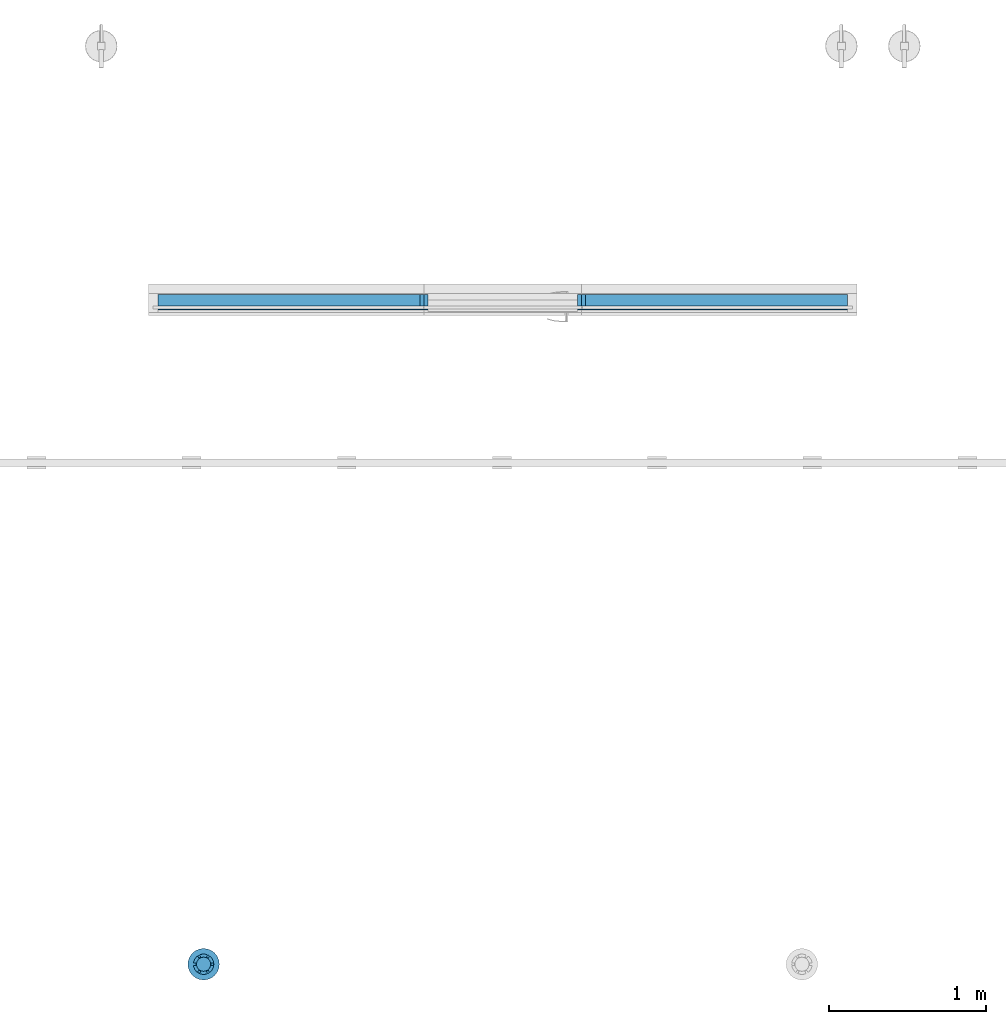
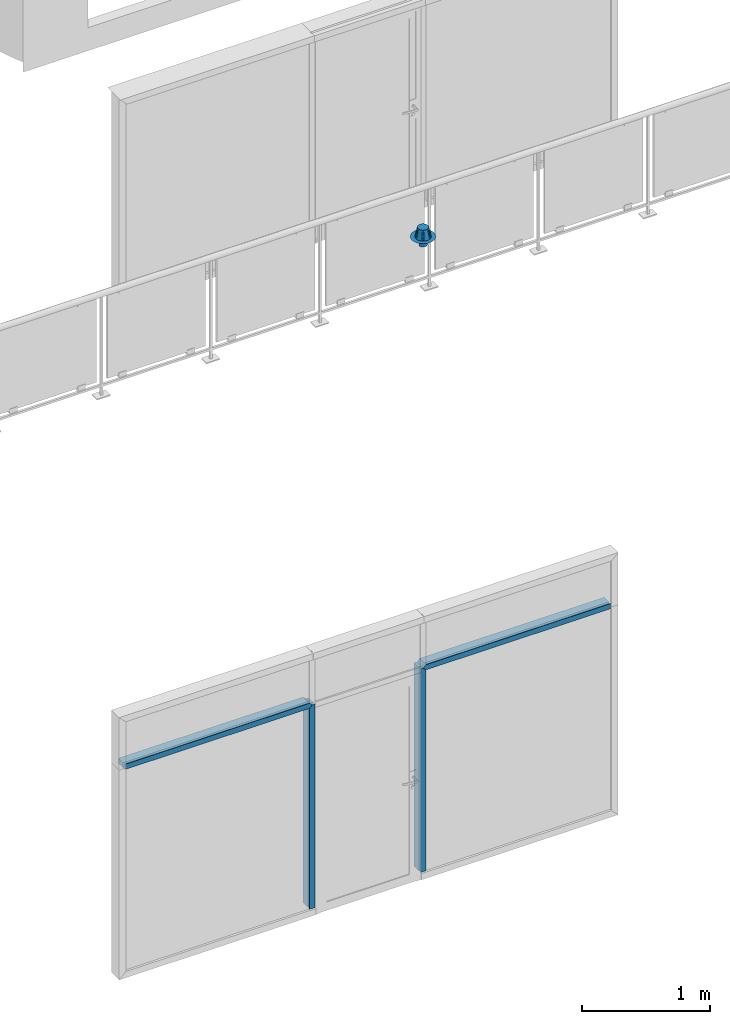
# One storey, part 4 of 7: 4 members, 1 beam, 1 element without a shape of its own.
"""IFC4 building model written with IfcOpenShell, lengths in millimetres."""

from ifc_helpers import new_model, entity, si_unit, converted_unit, derived_unit, direction, frame, origin_with_axes, place, context, subcontext, project, spatial, polygons, material, type_object, element, aggregate, save


model = new_model("IFC4")

# Units and contexts
model_context = context("Model", 3, precision=0.01, world=origin_with_axes(), true_north=direction((0.0, 1.0)))
body_context = subcontext(model_context, "Body", "Model", "MODEL_VIEW")
ifc_project = project(units=[si_unit("LENGTHUNIT", "METRE", prefix="MILLI"), si_unit("AREAUNIT", "SQUARE_METRE"), si_unit("VOLUMEUNIT", "CUBIC_METRE"), converted_unit("PLANEANGLEUNIT", "DEGREE", entity("IfcPlaneAngleMeasure", 0.0174532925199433), si_unit("PLANEANGLEUNIT", "RADIAN"), dimensions=[0, 0, 0, 0, 0, 0, 0]), converted_unit("TIMEUNIT", "Year", entity("IfcTimeMeasure", 31557600.0), si_unit("TIMEUNIT", "SECOND"), dimensions=[0, 0, 1, 0, 0, 0, 0]), si_unit("MASSUNIT", "GRAM", prefix="KILO"), si_unit("THERMODYNAMICTEMPERATUREUNIT", "DEGREE_CELSIUS"), si_unit("LUMINOUSINTENSITYUNIT", "LUMEN"), si_unit("ENERGYUNIT", "JOULE", prefix="MEGA"), derived_unit("THERMALCONDUCTANCEUNIT", [(si_unit("POWERUNIT", "WATT"), 1), (si_unit("LENGTHUNIT", "METRE"), -1), (si_unit("THERMODYNAMICTEMPERATUREUNIT", "KELVIN"), -1)]), derived_unit("SPECIFICHEATCAPACITYUNIT", [(si_unit("ENERGYUNIT", "JOULE"), 1), (si_unit("MASSUNIT", "GRAM", prefix="KILO"), -1), (si_unit("THERMODYNAMICTEMPERATUREUNIT", "KELVIN"), -1)]), derived_unit("MASSDENSITYUNIT", [(si_unit("MASSUNIT", "GRAM", prefix="KILO"), 1), (si_unit("VOLUMEUNIT", "CUBIC_METRE"), -1)])], contexts=[model_context])

# Site, building, storey
site_placement = place(None, origin_with_axes())
site = spatial("IfcSite", under=ifc_project, at=site_placement, Name="Exteriér", CompositionType="ELEMENT")
building_placement = place(site_placement, origin_with_axes())
building = spatial("IfcBuilding", under=site, at=building_placement, Name="Univerzitní lezecké centrum", CompositionType="ELEMENT")
storey_placement = place(building_placement, frame((0.0, 0.0, 6400.0), z_axis=(0.0, 0.0, 1.0), x_axis=(1.0, 0.0, 0.0)))
storey = spatial("IfcBuildingStorey", under=building, at=storey_placement, Name="3.NP", CompositionType="ELEMENT", Elevation=6400.0)

# Curtain wall, members
curtain_wall_type = type_object("IfcCurtainWallType", Name="Typ lehkého obvodového pláště", PredefinedType="NOTDEFINED")
curtain_wall_placement = place(storey_placement, frame((1075.010273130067, -270.0000000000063, -6400.000000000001), z_axis=(0.0, 0.0, 1.0), x_axis=(1.0, 0.0, 0.0)))
curtain_wall = element("IfcCurtainWall", 1, at=curtain_wall_placement, inside=storey, type_object=curtain_wall_type, Name="LOP06", PredefinedType="NOTDEFINED")
ifc_material = material(Name="Hliník")
member_type = type_object("IfcMemberType", Name="50 x 100", PredefinedType="NOTDEFINED")
member_1_placement = place(curtain_wall_placement, frame((875.0833138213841, 0.0, 0.0), z_axis=(0.0, 0.0, 1.0), x_axis=(-1.0, 0.0, 0.0)))
member_1 = element("IfcMember", 2, at=member_1_placement, type_object=member_type, material=ifc_material, Name="RS026", PredefinedType="NOTDEFINED", context=body_context, shape_type="Tessellation", body=[
    polygons([(0.0, -10.00000000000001, 59.99999999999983), (-24.99999999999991, -10.00000000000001, 60.00000000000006), (-24.99999999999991, -10.00000000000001, 1999.999985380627), (0.0, -10.00000000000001, 1999.999985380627), (24.99999999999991, -10.00000000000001, 1974.999985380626), (24.99999999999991, -10.00000000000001, 60.00000000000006), (24.99999999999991, -85.00000000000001, 60.00000000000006), (-24.99999999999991, -85.00000000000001, 60.00000000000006), (-24.99999999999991, -85.00000000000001, 1999.999985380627), (0.0, -84.99999999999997, 1999.999985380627), (24.99999999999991, -85.00000000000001, 1974.999985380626)], [[[1, 2, 3, 4, 5, 6]], [[2, 1, 6, 7, 8]], [[3, 2, 8, 9]], [[4, 3, 9, 10]], [[4, 10, 11, 5]], [[5, 11, 7, 6]], [[7, 11, 10, 9, 8]]], closed=True),
    polygons([(-24.99999999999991, 10.00000000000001, 1999.999985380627), (0.0, 10.00000000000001, 1999.999985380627), (0.0, 15.00000000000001, 1999.999985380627), (-24.99999999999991, 15.00000000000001, 1999.999985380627), (-24.99999999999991, 10.00000000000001, 60.00000000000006), (0.0, 10.00000000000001, 60.00000000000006), (24.99999999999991, 10.00000000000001, 60.00000000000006), (24.99999999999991, 10.00000000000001, 1974.999985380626), (24.99999999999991, 14.99999999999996, 1974.999985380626), (24.99999999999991, 15.00000000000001, 60.00000000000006), (-24.99999999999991, 15.00000000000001, 60.00000000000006)], [[[1, 2, 3, 4]], [[2, 1, 5, 6, 7, 8]], [[8, 9, 3, 2]], [[4, 3, 9, 10, 11]], [[5, 1, 4, 11]], [[6, 5, 11, 10, 7]], [[7, 10, 9, 8]]], closed=True),
])
member_2_placement = place(curtain_wall_placement, frame((-875.0833138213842, 0.0, 1999.999935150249), z_axis=(1.0, 0.0, 0.0), x_axis=(0.0, 0.0, 1.0)))
member_2 = element("IfcMember", 3, at=member_2_placement, type_object=member_type, material=ifc_material, Name="RT031", PredefinedType="NOTDEFINED", context=body_context, shape_type="Tessellation", body=[
    polygons([(0.0, -10.00000000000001, 59.99999999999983), (-24.99999999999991, -10.00000000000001, 59.99999999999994), (-25.00000000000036, -9.999999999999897, 1725.166627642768), (0.0, -9.999999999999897, 1750.166627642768), (25.00000000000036, -9.999999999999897, 1725.166627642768), (24.99999999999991, -10.00000000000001, 59.99999999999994), (24.99999999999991, -85.00000000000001, 60.00000000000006), (-25.00000000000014, -85.00000000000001, 60.00000000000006), (-25.00000000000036, -84.99999999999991, 1725.166627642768), (0.0, -84.99999999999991, 1750.166627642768), (25.00000000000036, -84.99999999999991, 1725.166627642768)], [[[1, 2, 3, 4, 5, 6]], [[2, 1, 6, 7, 8]], [[3, 2, 8, 9]], [[4, 3, 9, 10]], [[4, 10, 11, 5]], [[5, 11, 7, 6]], [[11, 10, 9, 8, 7]]], closed=True),
    polygons([(-25.00000000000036, 10.00000000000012, 1725.166627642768), (0.0, 10.00000000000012, 1750.166627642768), (0.0, 15.00000000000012, 1750.166627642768), (-25.00000000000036, 15.00000000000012, 1725.166627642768), (-24.99999999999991, 10.00000000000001, 59.99999999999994), (0.0, 10.00000000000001, 59.99999999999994), (24.99999999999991, 10.00000000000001, 59.99999999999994), (25.00000000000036, 10.00000000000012, 1725.166627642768), (25.00000000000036, 15.00000000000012, 1725.166627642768), (-24.99999999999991, 15.00000000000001, 59.99999999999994), (24.99999999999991, 15.00000000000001, 59.99999999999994)], [[[1, 2, 3, 4]], [[2, 1, 5, 6, 7, 8]], [[8, 9, 3, 2]], [[10, 4, 3, 9, 11]], [[5, 1, 4, 10]], [[6, 5, 10, 11, 7]], [[7, 11, 9, 8]]], closed=True),
])
member_3_placement = place(curtain_wall_placement, frame((1875.083313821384, 0.0, 0.0), z_axis=(0.0, 0.0, 1.0), x_axis=(-1.0, 0.0, 0.0)))
member_3 = element("IfcMember", 4, at=member_3_placement, type_object=member_type, material=ifc_material, Name="RS026", PredefinedType="NOTDEFINED", context=body_context, shape_type="Tessellation", body=[
    polygons([(0.0, -10.00000000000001, 59.99999999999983), (-24.99999999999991, -10.00000000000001, 60.00000000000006), (-24.99999999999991, -10.00000000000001, 1974.999985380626), (0.0, -10.00000000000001, 1999.999985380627), (24.99999999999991, -10.00000000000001, 1999.999985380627), (24.99999999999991, -10.00000000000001, 60.00000000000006), (24.99999999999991, -85.00000000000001, 60.00000000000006), (-24.99999999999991, -85.00000000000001, 60.00000000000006), (-24.99999999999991, -85.00000000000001, 1974.999985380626), (0.0, -85.00000000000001, 1999.999985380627), (24.99999999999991, -85.00000000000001, 1999.999985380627)], [[[1, 2, 3, 4, 5, 6]], [[2, 1, 6, 7, 8]], [[3, 2, 8, 9]], [[4, 3, 9, 10]], [[4, 10, 11, 5]], [[5, 11, 7, 6]], [[11, 10, 9, 8, 7]]], closed=True),
    polygons([(-24.99999999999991, 10.00000000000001, 1974.999985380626), (0.0, 10.00000000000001, 1999.999985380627), (0.0, 14.99999999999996, 1999.999985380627), (-24.99999999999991, 15.00000000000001, 1974.999985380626), (-24.99999999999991, 10.00000000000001, 60.00000000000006), (0.0, 10.00000000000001, 60.00000000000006), (24.99999999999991, 10.00000000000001, 60.00000000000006), (24.99999999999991, 10.00000000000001, 1999.999985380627), (24.99999999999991, 15.00000000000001, 1999.999985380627), (-24.99999999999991, 15.00000000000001, 60.00000000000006), (24.99999999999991, 15.00000000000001, 60.00000000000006)], [[[1, 2, 3, 4]], [[2, 1, 5, 6, 7, 8]], [[8, 9, 3, 2]], [[10, 4, 3, 9, 11]], [[5, 1, 4, 10]], [[6, 5, 10, 11, 7]], [[7, 11, 9, 8]]], closed=True),
])
member_4_placement = place(curtain_wall_placement, frame((1875.083313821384, 0.0, 1999.999935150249), z_axis=(1.0, 0.0, 0.0), x_axis=(0.0, 0.0, 1.0)))
member_4 = element("IfcMember", 5, at=member_4_placement, type_object=member_type, material=ifc_material, Name="RT031", PredefinedType="NOTDEFINED", context=body_context, shape_type="Tessellation", body=[
    polygons([(0.0, -10.00000000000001, 0.0), (-25.00000000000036, -10.00000000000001, 24.99999999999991), (-24.99999999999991, -9.999999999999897, 1690.0), (0.0, -9.999999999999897, 1690.0), (24.99999999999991, -9.999999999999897, 1690.0), (25.00000000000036, -10.00000000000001, 24.99999999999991), (0.0, -85.00000000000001, 0.0), (-25.00000000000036, -85.00000000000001, 24.99999999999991), (-24.99999999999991, -84.99999999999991, 1690.0), (24.99999999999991, -84.99999999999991, 1690.0), (25.00000000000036, -85.00000000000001, 24.99999999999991)], [[[1, 2, 3, 4, 5, 6]], [[2, 1, 7, 8]], [[3, 2, 8, 9]], [[4, 3, 9, 10, 5]], [[5, 10, 11, 6]], [[6, 11, 7, 1]], [[8, 7, 11, 10, 9]]], closed=True),
    polygons([(-24.99999999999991, 10.00000000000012, 1690.0), (0.0, 10.00000000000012, 1690.0), (24.99999999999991, 10.00000000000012, 1690.0), (24.99999999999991, 15.00000000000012, 1690.0), (-24.99999999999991, 15.00000000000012, 1690.0), (-25.00000000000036, 10.00000000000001, 24.99999999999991), (0.0, 10.00000000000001, 0.0), (25.00000000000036, 10.00000000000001, 24.99999999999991), (25.00000000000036, 15.00000000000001, 24.99999999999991), (0.0, 15.00000000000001, 0.0), (-25.00000000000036, 15.00000000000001, 24.99999999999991)], [[[1, 2, 3, 4, 5]], [[2, 1, 6, 7, 8, 3]], [[8, 9, 4, 3]], [[9, 10, 11, 5, 4]], [[6, 1, 5, 11]], [[7, 6, 11, 10]], [[7, 10, 9, 8]]], closed=True),
])
aggregate(curtain_wall, [member_1, member_2, member_3, member_4])

# Beam
beam_type = type_object("IfcBeamType", Name="Kruhová střešní vpusť 27", PredefinedType="BEAM")
beam_placement = place(storey_placement, frame((549.8516488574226, -4439.702610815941, 3076.02698563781), z_axis=(0.0, 0.0, 1.0), x_axis=(1.0, 0.0, 0.0)))
element("IfcBeam", 6, at=beam_placement, inside=storey, type_object=beam_type, Name="OV06", PredefinedType="BEAM", context=body_context, shape_type="Tessellation", body=[
    polygons([(100.0, 0.0, 0.0), (96.59258262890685, -25.88190451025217, 0.0), (86.60254037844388, -50.0000000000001, 0.0), (70.71067811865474, -70.71067811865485, 0.0), (49.99999999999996, -86.60254037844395, 0.0), (25.88190451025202, -96.59258262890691, 0.0), (0.0, -100.0, 0.0), (-25.88190451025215, -96.59258262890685, 0.0), (-50.00000000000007, -86.60254037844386, 0.0), (-70.71067811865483, -70.71067811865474, 0.0), (-86.60254037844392, -49.99999999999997, 0.0), (-96.59258262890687, -25.88190451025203, 0.0), (-100.0, 0.0, 0.0), (-96.59258262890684, 25.88190451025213, 0.0), (-86.60254037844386, 50.00000000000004, 0.0), (-70.71067811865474, 70.7106781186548, 0.0), (-49.99999999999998, 86.60254037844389, 0.0), (-25.88190451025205, 96.59258262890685, 0.0), (0.0, 100.0, 0.0), (25.88190451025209, 96.59258262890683, 0.0), (50.00000000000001, 86.60254037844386, 0.0), (70.71067811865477, 70.71067811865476, 0.0), (86.60254037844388, 49.99999999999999, 0.0), (96.59258262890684, 25.88190451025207, 0.0), (33.00000000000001, 0.0, 0.0), (31.87555226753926, 8.541028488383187, 0.0), (28.57883832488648, 16.5, 0.0), (23.33452377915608, 23.33452377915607, 0.0), (16.50000000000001, 28.57883832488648, 0.0), (8.541028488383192, 31.87555226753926, 0.0), (0.0, 33.00000000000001, 0.0), (-8.541028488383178, 31.87555226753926, 0.0), (-16.5, 28.57883832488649, 0.0), (-23.33452377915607, 23.33452377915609, 0.0), (-28.57883832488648, 16.50000000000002, 0.0), (-31.87555226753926, 8.541028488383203, 0.0), (-33.00000000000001, 0.0, 0.0), (-31.87555226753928, -8.541028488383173, 0.0), (-28.5788383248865, -16.49999999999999, 0.0), (-23.33452377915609, -23.33452377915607, 0.0), (-16.50000000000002, -28.57883832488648, 0.0), (-8.54102848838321, -31.87555226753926, 0.0), (0.0, -33.00000000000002, 0.0), (8.541028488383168, -31.87555226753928, 0.0), (16.49999999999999, -28.57883832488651, 0.0), (23.33452377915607, -23.3345237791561, 0.0), (28.57883832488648, -16.50000000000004, 0.0), (31.87555226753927, -8.54102848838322, 0.0)], [[[1, 2, 3, 4, 5, 6, 7, 8, 9, 10, 11, 12, 13, 14, 15, 16, 17, 18, 19, 20, 21, 22, 23, 24], [25, 26, 27, 28, 29, 30, 31, 32, 33, 34, 35, 36, 37, 38, 39, 40, 41, 42, 43, 44, 45, 46, 47, 48]]], closed=False),
    polygons([(31.96492204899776, -55.36486904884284, 4.500000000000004), (25.25559015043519, -58.14396531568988, 4.499999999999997), (17.31795095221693, -44.39557093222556, 76.5), (24.02728285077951, -41.61647466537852, 76.5), (22.55, -39.05774571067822, 89.89999999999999), (11.67273893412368, -43.563254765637, 89.89999999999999), (16.79735602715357, -62.68858612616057, 0.09999999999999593), (32.44999999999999, -56.20504870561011, 0.09999999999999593), (29.78871676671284, -37.19557093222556, 76.5), (37.72635596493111, -50.94396531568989, 4.499999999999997), (45.89123009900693, -45.89123009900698, 0.09999999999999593), (31.8905158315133, -31.89051583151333, 89.89999999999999), (22.5, -38.97114317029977, 90.0), (11.64685702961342, -43.46666218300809, 90.0), (0.0, -45.10000000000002, 89.89999999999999), (0.0, -64.90000000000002, 0.1000000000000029), (32.49999999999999, -56.29165124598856, 0.0), (16.82323793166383, -62.78517870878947, 0.0), (45.96194077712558, -45.96194077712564, 0.0), (56.20504870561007, -32.45000000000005, 0.09999999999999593), (39.0577457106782, -22.55000000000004, 89.89999999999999), (31.81980515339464, -31.81980515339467, 90.0), (38.97114317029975, -22.50000000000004, 90.0), (43.46666218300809, -11.64685702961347, 90.0), (45.00000000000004, 0.0, 90.0), (43.46666218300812, 11.64685702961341, 90.0), (38.97114317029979, 22.49999999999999, 90.0), (31.81980515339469, 31.81980515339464, 90.0), (22.50000000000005, 38.97114317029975, 90.0), (11.64685702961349, 43.46666218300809, 90.0), (0.0, 45.00000000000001, 90.0), (-11.64685702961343, 43.46666218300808, 90.0), (-22.49999999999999, 38.97114317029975, 90.0), (-31.81980515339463, 31.81980515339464, 90.0), (-38.97114317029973, 22.50000000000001, 90.0), (-43.46666218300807, 11.64685702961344, 90.0), (-45.0, 0.0, 90.0), (-43.46666218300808, -11.64685702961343, 90.0), (-38.97114317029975, -22.49999999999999, 90.0), (-31.81980515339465, -31.81980515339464, 90.0), (-22.50000000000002, -38.97114317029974, 90.0), (-11.64685702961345, -43.46666218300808, 90.0), (0.0, -45.00000000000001, 90.0), (-11.6727389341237, -43.56325476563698, 89.89999999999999), (-16.79735602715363, -62.68858612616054, 0.1000000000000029), (0.0, -65.00000000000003, 0.0), (56.29165124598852, -32.50000000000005, 0.0), (62.68858612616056, -16.79735602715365, 0.09999999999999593), (43.563254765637, -11.67273893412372, 89.89999999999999), (45.10000000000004, 0.0, 89.89999999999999), (43.56325476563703, 11.67273893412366, 89.89999999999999), (39.05774571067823, 22.54999999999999, 89.89999999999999), (31.89051583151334, 31.89051583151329, 89.89999999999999), (22.55000000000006, 39.0577457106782, 89.89999999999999), (11.67273893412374, 43.563254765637, 89.89999999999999), (0.0, 45.10000000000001, 89.89999999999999), (-11.67273893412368, 43.56325476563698, 89.89999999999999), (-22.54999999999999, 39.0577457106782, 89.89999999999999), (-31.89051583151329, 31.89051583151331, 89.89999999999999), (-39.05774571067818, 22.55000000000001, 89.89999999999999), (-43.56325476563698, 11.67273893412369, 89.89999999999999), (-45.1, 0.0, 89.89999999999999), (-43.56325476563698, -11.67273893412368, 89.89999999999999), (-39.0577457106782, -22.54999999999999, 89.89999999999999), (-31.89051583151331, -31.89051583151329, 89.89999999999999), (-22.55000000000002, -39.05774571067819, 89.89999999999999), (-24.02728285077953, -41.6164746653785, 76.49999999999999), (-17.31795095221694, -44.39557093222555, 76.5), (-25.25559015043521, -58.14396531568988, 4.500000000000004), (-31.96492204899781, -55.36486904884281, 4.49999999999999), (-32.45000000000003, -56.20504870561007, 0.1000000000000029), (-16.82323793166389, -62.78517870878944, 0.0), (62.78517870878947, -16.8232379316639, 0.0), (64.90000000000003, 0.0, 0.09999999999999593), (63.92984409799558, 0.0, 4.500000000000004), (62.98194611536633, -7.200000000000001, 4.499999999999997), (47.1066677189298, -7.200000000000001, 76.5), (48.05456570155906, 0.0, 76.5), (62.68858612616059, 16.79735602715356, 0.09999999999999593), (47.1066677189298, 7.200000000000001, 76.5), (62.98194611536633, 7.200000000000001, 4.499999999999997), (56.20504870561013, 32.44999999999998, 0.09999999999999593), (45.891230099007, 45.89123009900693, 0.09999999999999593), (32.45000000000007, 56.20504870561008, 0.09999999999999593), (31.96492204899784, 55.36486904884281, 4.500000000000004), (37.72635596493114, 50.9439653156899, 4.499999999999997), (29.78871676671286, 37.19557093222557, 76.5), (24.02728285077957, 41.6164746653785, 76.49999999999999), (16.79735602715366, 62.68858612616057, 0.09999999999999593), (17.31795095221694, 44.39557093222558, 76.5), (25.25559015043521, 58.14396531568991, 4.499999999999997), (0.0, 64.90000000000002, 0.1000000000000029), (-16.7973560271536, 62.68858612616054, 0.1000000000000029), (-31.96492204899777, 55.36486904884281, 4.500000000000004), (-25.25559015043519, 58.14396531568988, 4.500000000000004), (-17.31795095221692, 44.39557093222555, 76.5), (-24.0272828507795, 41.6164746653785, 76.5), (-32.45, 56.20504870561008, 0.1000000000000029), (-29.78871676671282, 37.19557093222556, 76.5), (-37.7263559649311, 50.94396531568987, 4.500000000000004), (-45.89123009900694, 45.89123009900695, 0.1000000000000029), (-56.20504870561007, 32.45000000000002, 0.1000000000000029), (-62.68858612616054, 16.79735602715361, 0.1000000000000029), (-62.98194611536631, 7.200000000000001, 4.500000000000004), (-47.10666771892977, 7.200000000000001, 76.5), (-48.05456570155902, 0.0, 76.5), (-64.90000000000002, 0.0, 0.1000000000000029), (-63.92984409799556, 0.0, 4.500000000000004), (-47.10666771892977, -7.200000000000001, 76.5), (-62.98194611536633, -7.200000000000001, 4.500000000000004), (-62.68858612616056, -16.79735602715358, 0.1000000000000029), (-56.2050487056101, -32.45, 0.1000000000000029), (-45.89123009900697, -45.89123009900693, 0.1000000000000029), (-37.72635596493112, -50.94396531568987, 4.500000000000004), (-29.78871676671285, -37.19557093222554, 76.5), (-32.50000000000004, -56.29165124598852, 0.0), (65.00000000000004, 0.0, 0.0), (62.78517870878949, 16.82323793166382, 0.0), (56.29165124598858, 32.49999999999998, 0.0), (45.96194077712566, 45.96194077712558, 0.0), (32.50000000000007, 56.29165124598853, 0.0), (16.82323793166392, 62.78517870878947, 0.0), (0.0, 65.00000000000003, 0.0), (-16.82323793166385, 62.78517870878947, 0.0), (-32.5, 56.29165124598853, 0.0), (-45.9619407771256, 45.9619407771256, 0.0), (-56.29165124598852, 32.50000000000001, 0.0), (-62.78517870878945, 16.82323793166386, 0.0), (-65.00000000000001, 0.0, 0.0), (-62.78517870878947, -16.82323793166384, 0.0), (-56.29165124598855, -32.49999999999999, 0.0), (-45.96194077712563, -45.96194077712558, 0.0)], [[[1, 2, 3, 4, 5, 6, 7, 8]], [[9, 10, 1, 8, 11, 12, 5, 4]], [[5, 13, 14, 6]], [[15, 16, 7, 6]], [[17, 8, 7, 18]], [[19, 11, 8, 17]], [[12, 11, 20, 21]], [[12, 22, 13, 5]], [[22, 23, 24, 25, 26, 27, 28, 29, 30, 31, 32, 33, 34, 35, 36, 37, 38, 39, 40, 41, 42, 43, 14, 13]], [[6, 14, 43, 15]], [[44, 45, 16, 15]], [[18, 7, 16, 46]], [[47, 20, 11, 19]], [[21, 20, 48, 49]], [[21, 23, 22, 12]], [[49, 24, 23, 21]], [[50, 25, 24, 49]], [[51, 26, 25, 50]], [[52, 27, 26, 51]], [[53, 28, 27, 52]], [[54, 29, 28, 53]], [[55, 30, 29, 54]], [[56, 31, 30, 55]], [[57, 32, 31, 56]], [[58, 33, 32, 57]], [[59, 34, 33, 58]], [[60, 35, 34, 59]], [[61, 36, 35, 60]], [[62, 37, 36, 61]], [[63, 38, 37, 62]], [[64, 39, 38, 63]], [[65, 40, 39, 64]], [[66, 41, 40, 65]], [[44, 42, 41, 66]], [[15, 43, 42, 44]], [[45, 44, 66, 67, 68, 69, 70, 71]], [[46, 16, 45, 72]], [[73, 48, 20, 47]], [[49, 48, 74, 75, 76, 77, 78, 50]], [[79, 51, 50, 78, 80, 81, 75, 74]], [[51, 79, 82, 52]], [[52, 82, 83, 53]], [[53, 83, 84, 85, 86, 87, 88, 54]], [[89, 55, 54, 88, 90, 91, 85, 84]], [[55, 89, 92, 56]], [[56, 92, 93, 57]], [[94, 95, 96, 97, 58, 57, 93, 98]], [[97, 99, 100, 94, 98, 101, 59, 58]], [[59, 101, 102, 60]], [[60, 102, 103, 61]], [[104, 105, 106, 62, 61, 103, 107, 108]], [[109, 110, 108, 107, 111, 63, 62, 106]], [[63, 111, 112, 64]], [[64, 112, 113, 65]], [[65, 113, 71, 70, 114, 115, 67, 66]], [[72, 45, 71, 116]], [[117, 74, 48, 73]], [[118, 79, 74, 117]], [[119, 82, 79, 118]], [[120, 83, 82, 119]], [[121, 84, 83, 120]], [[122, 89, 84, 121]], [[123, 92, 89, 122]], [[124, 93, 92, 123]], [[125, 98, 93, 124]], [[126, 101, 98, 125]], [[127, 102, 101, 126]], [[128, 103, 102, 127]], [[129, 107, 103, 128]], [[130, 111, 107, 129]], [[131, 112, 111, 130]], [[132, 113, 112, 131]], [[116, 71, 113, 132]]], closed=False),
    polygons([(0.0, -33.00000000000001, 0.0), (-8.541028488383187, -31.87555226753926, 0.0), (-8.541028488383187, -31.87555226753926, -80.0), (0.0, -33.0, -80.0), (-16.5, -28.57883832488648, 0.0), (-16.5, -28.57883832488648, -80.0), (8.54102848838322, -31.87555226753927, 0.0), (8.54102848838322, -31.87555226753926, -80.0), (-23.33452377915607, -23.33452377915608, 0.0), (-23.33452377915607, -23.33452377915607, -80.0), (16.50000000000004, -28.57883832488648, 0.0), (16.50000000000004, -28.57883832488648, -80.0), (-28.57883832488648, -16.50000000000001, 0.0), (-28.57883832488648, -16.5, -80.0), (23.3345237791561, -23.33452377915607, 0.0), (23.3345237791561, -23.33452377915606, -80.0), (-31.87555226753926, -8.541028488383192, 0.0), (-31.87555226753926, -8.541028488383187, -80.0), (28.57883832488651, -16.49999999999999, 0.0), (28.57883832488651, -16.49999999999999, -80.0), (-33.00000000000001, 0.0, 0.0), (-33.00000000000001, 0.0, -80.0), (31.87555226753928, -8.541028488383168, 0.0), (31.87555226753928, -8.541028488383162, -80.0), (-31.87555226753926, 8.541028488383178, 0.0), (-31.87555226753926, 8.541028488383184, -80.0), (33.00000000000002, 0.0, 0.0), (33.00000000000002, 0.0, -80.0), (-28.57883832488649, 16.5, 0.0), (-28.57883832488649, 16.5, -80.0), (31.87555226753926, 8.54102848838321, 0.0), (31.87555226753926, 8.541028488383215, -80.0), (-23.33452377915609, 23.33452377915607, 0.0), (-23.33452377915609, 23.33452377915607, -80.0), (28.57883832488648, 16.50000000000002, 0.0), (28.57883832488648, 16.50000000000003, -80.0), (-16.50000000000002, 28.57883832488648, 0.0), (-16.50000000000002, 28.57883832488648, -80.0), (23.33452377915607, 23.33452377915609, 0.0), (23.33452377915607, 23.3345237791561, -80.0), (-8.541028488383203, 31.87555226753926, 0.0), (-8.541028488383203, 31.87555226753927, -80.0), (16.49999999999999, 28.5788383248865, 0.0), (16.49999999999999, 28.5788383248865, -80.0), (0.0, 33.00000000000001, 0.0), (0.0, 33.00000000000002, -80.0), (8.541028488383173, 31.87555226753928, 0.0), (8.541028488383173, 31.87555226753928, -80.0)], [[[1, 2, 3, 4]], [[2, 5, 6, 3]], [[7, 1, 4, 8]], [[5, 9, 10, 6]], [[11, 7, 8, 12]], [[9, 13, 14, 10]], [[15, 11, 12, 16]], [[13, 17, 18, 14]], [[19, 15, 16, 20]], [[17, 21, 22, 18]], [[23, 19, 20, 24]], [[21, 25, 26, 22]], [[27, 23, 24, 28]], [[25, 29, 30, 26]], [[31, 27, 28, 32]], [[29, 33, 34, 30]], [[35, 31, 32, 36]], [[33, 37, 38, 34]], [[39, 35, 36, 40]], [[37, 41, 42, 38]], [[43, 39, 40, 44]], [[41, 45, 46, 42]], [[47, 43, 44, 48]], [[45, 47, 48, 46]]], closed=False),
])

save(model, "model.ifc")
